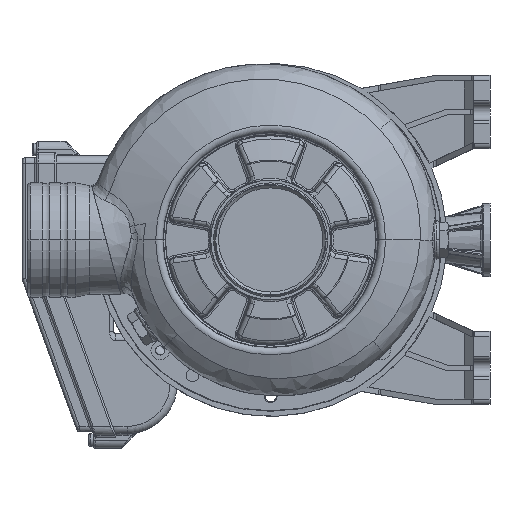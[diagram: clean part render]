
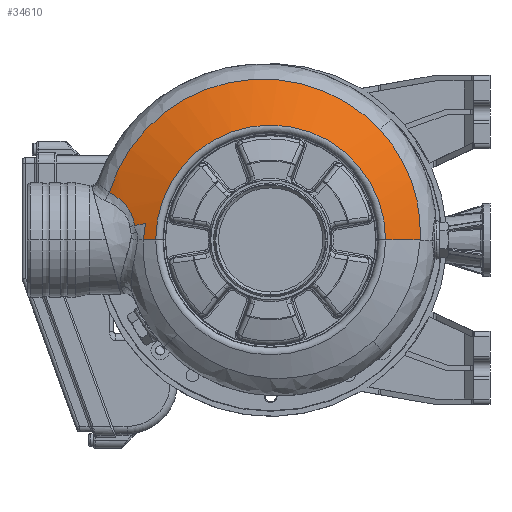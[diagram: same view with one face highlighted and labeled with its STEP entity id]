
A CAD part, left-side view. The second image highlights one B-rep face of the part: STEP entity #34610.
In plain terms, the highlighted spherical face has radius 172 mm.
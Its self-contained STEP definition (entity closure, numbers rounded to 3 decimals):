
#25201=CARTESIAN_POINT('',(0.,0.,36.093));
#25202=DIRECTION('',(0.,0.,-1.));
#25203=DIRECTION('',(0.,1.,0.));
#25204=AXIS2_PLACEMENT_3D('',#25201,#25202,#25203);
#25209=CARTESIAN_POINT('',(0.,0.,-124.));
#25210=DIRECTION('',(1.,0.,0.));
#25211=DIRECTION('',(0.,0.405,0.914));
#25212=AXIS2_PLACEMENT_3D('',#25209,#25210,#25211);
#25217=CARTESIAN_POINT('',(9.009,68.431,33.544));
#25218=CARTESIAN_POINT('',(8.266,68.578,33.522));
#25219=CARTESIAN_POINT('',(6.775,68.847,33.48));
#25220=CARTESIAN_POINT('',(4.526,69.175,33.417));
#25221=CARTESIAN_POINT('',(2.643,69.386,33.365));
#25222=CARTESIAN_POINT('',(1.134,69.517,33.323));
#25223=CARTESIAN_POINT('',(0.378,69.57,
33.302));
#25224=CARTESIAN_POINT('',(0.,69.594,
33.292));
#25229=CARTESIAN_POINT('',(9.009,68.431,33.544));
#25230=CARTESIAN_POINT('',(8.707,70.44,32.688));
#25231=CARTESIAN_POINT('',(8.356,72.427,31.799));
#25232=CARTESIAN_POINT('',(7.957,74.388,30.878));
#25237=CARTESIAN_POINT('',(7.957,74.388,30.878));
#25238=CARTESIAN_POINT('',(10.071,74.682,30.628));
#25239=CARTESIAN_POINT('',(14.185,75.867,29.757));
#25240=CARTESIAN_POINT('',(18.437,78.68,27.861));
#25241=CARTESIAN_POINT('',(21.255,81.382,26.042));
#25242=CARTESIAN_POINT('',(23.108,83.57,24.558));
#25243=CARTESIAN_POINT('',(24.422,85.507,23.235));
#25244=CARTESIAN_POINT('',(25.38,87.089,22.138));
#25245=CARTESIAN_POINT('',(25.789,87.907,21.573));
#25246=CARTESIAN_POINT('',(26.018,88.303,21.291));
#25251=CARTESIAN_POINT('',(26.018,88.303,21.291));
#25252=CARTESIAN_POINT('',(29.663,87.18,21.321));
#25253=CARTESIAN_POINT('',(36.812,84.458,21.395));
#25254=CARTESIAN_POINT('',(46.935,79.,21.547));
#25255=CARTESIAN_POINT('',(56.228,72.298,21.737));
#25256=CARTESIAN_POINT('',(64.596,64.424,21.962));
#25257=CARTESIAN_POINT('',(71.869,55.528,22.218));
#25258=CARTESIAN_POINT('',(77.927,45.75,22.5));
#25259=CARTESIAN_POINT('',(82.651,35.291,22.803));
#25260=CARTESIAN_POINT('',(85.978,24.305,23.123));
#25261=CARTESIAN_POINT('',(87.85,12.961,23.453));
#25262=CARTESIAN_POINT('',(88.229,1.46,23.789));
#25263=CARTESIAN_POINT('',(87.106,-9.991,
24.124));
#25264=CARTESIAN_POINT('',(84.51,-21.173,
24.451));
#25265=CARTESIAN_POINT('',(80.472,-31.944,
24.768));
#25266=CARTESIAN_POINT('',(75.076,-42.085,
25.066));
#25267=CARTESIAN_POINT('',(68.376,-51.473,
25.343));
#25268=CARTESIAN_POINT('',(63.161,-57.065,
25.509));
#25269=CARTESIAN_POINT('',(60.385,-59.678,
25.586));
#25274=CARTESIAN_POINT('',(60.385,-59.678,
25.586));
#25275=CARTESIAN_POINT('',(57.738,-62.171,
25.661));
#25276=CARTESIAN_POINT('',(52.092,-66.819,
25.819));
#25277=CARTESIAN_POINT('',(42.734,-72.619,
26.083));
#25278=CARTESIAN_POINT('',(32.595,-77.146,
26.37));
#25279=CARTESIAN_POINT('',(21.97,-80.25,
26.672));
#25280=CARTESIAN_POINT('',(11.026,-81.898,
26.983));
#25281=CARTESIAN_POINT('',(3.664,-82.005,
27.193));
#25282=CARTESIAN_POINT('',(0.,-81.811,
27.297));
#25287=CARTESIAN_POINT('',(0.,0.,-124.));
#25288=DIRECTION('',(-1.,0.,0.));
#25289=DIRECTION('',(0.,-0.476,0.88));
#25290=AXIS2_PLACEMENT_3D('',#25287,#25288,#25289);
#25319=CARTESIAN_POINT('',(0.,-81.811,
27.297));
#25442=CARTESIAN_POINT('',(7.957,74.388,30.878));
#25450=CARTESIAN_POINT('',(26.018,88.303,21.291));
#28192=VERTEX_POINT('',#25319);
#28193=VERTEX_POINT('',#25274);
#28196=VERTEX_POINT('',#25217);
#28197=VERTEX_POINT('',#25224);
#28237=VERTEX_POINT('',#25442);
#28239=VERTEX_POINT('',#25450);
#28317=CARTESIAN_POINT('',(0.,62.883,36.093));
#28318=CARTESIAN_POINT('',(0.,-62.883,36.093));
#28319=VERTEX_POINT('',#28317);
#28320=VERTEX_POINT('',#28318);
#34588=CARTESIAN_POINT('',(0.,0.,-124.));
#34589=DIRECTION('',(0.,0.,1.));
#34590=DIRECTION('',(0.,1.,0.));
#34591=AXIS2_PLACEMENT_3D('',#34588,#34589,#34590);
#34592=SPHERICAL_SURFACE('',#34591,172.);
#34594=ORIENTED_EDGE('',*,*,#34593,.F.);
#34596=ORIENTED_EDGE('',*,*,#34595,.F.);
#34598=ORIENTED_EDGE('',*,*,#34597,.F.);
#34600=ORIENTED_EDGE('',*,*,#34599,.T.);
#34602=ORIENTED_EDGE('',*,*,#34601,.T.);
#34604=ORIENTED_EDGE('',*,*,#34603,.T.);
#34605=ORIENTED_EDGE('',*,*,#34578,.T.);
#34607=ORIENTED_EDGE('',*,*,#34606,.T.);
#34608=EDGE_LOOP('',(#34594,#34596,#34598,#34600,#34602,#34604,#34605,#34607));
#34609=FACE_OUTER_BOUND('',#34608,.F.);
#25205=CIRCLE('',#25204,62.883);
#25213=CIRCLE('',#25212,172.);
#25225=B_SPLINE_CURVE_WITH_KNOTS('',3,(#25217,#25218,#25219,#25220,#25221,
#25222,#25223,#25224),.UNSPECIFIED.,.F.,.F.,(4,1,1,1,1,4),(0.,0.25,0.5,
0.75,0.875,1.),.UNSPECIFIED.);
#25233=B_SPLINE_CURVE_WITH_KNOTS('',3,(#25229,#25230,#25231,#25232),
.UNSPECIFIED.,.F.,.F.,(4,4),(0.,1.),.UNSPECIFIED.);
#25247=B_SPLINE_CURVE_WITH_KNOTS('',3,(#25237,#25238,#25239,#25240,#25241,
#25242,#25243,#25244,#25245,#25246),.UNSPECIFIED.,.F.,.F.,(4,1,1,1,1,1,1,4),(
0.,0.25,0.5,0.625,0.75,0.875,0.938,1.),.UNSPECIFIED.);
#25270=B_SPLINE_CURVE_WITH_KNOTS('',3,(#25251,#25252,#25253,#25254,#25255,
#25256,#25257,#25258,#25259,#25260,#25261,#25262,#25263,#25264,#25265,#25266,
#25267,#25268,#25269),.UNSPECIFIED.,.F.,.F.,(4,1,1,1,1,1,1,1,1,1,1,1,1,1,1,1,4),
(0.,0.063,0.125,0.188,0.25,0.313,0.375,0.438,0.5,0.563,
0.625,0.688,0.75,0.813,0.875,0.938,1.),.UNSPECIFIED.);
#25283=B_SPLINE_CURVE_WITH_KNOTS('',3,(#25274,#25275,#25276,#25277,#25278,
#25279,#25280,#25281,#25282),.UNSPECIFIED.,.F.,.F.,(4,1,1,1,1,1,4),(0.,
0.167,0.333,0.5,0.667,0.833,
1.),.UNSPECIFIED.);
#25291=CIRCLE('',#25290,172.);
#34578=EDGE_CURVE('',#28193,#28192,#25283,.T.);
#34593=EDGE_CURVE('',#28319,#28320,#25205,.T.);
#34595=EDGE_CURVE('',#28197,#28319,#25213,.T.);
#34597=EDGE_CURVE('',#28196,#28197,#25225,.T.);
#34599=EDGE_CURVE('',#28196,#28237,#25233,.T.);
#34601=EDGE_CURVE('',#28237,#28239,#25247,.T.);
#34603=EDGE_CURVE('',#28239,#28193,#25270,.T.);
#34606=EDGE_CURVE('',#28192,#28320,#25291,.T.);
#34610=ADVANCED_FACE('',(#34609),#34592,.T.);
